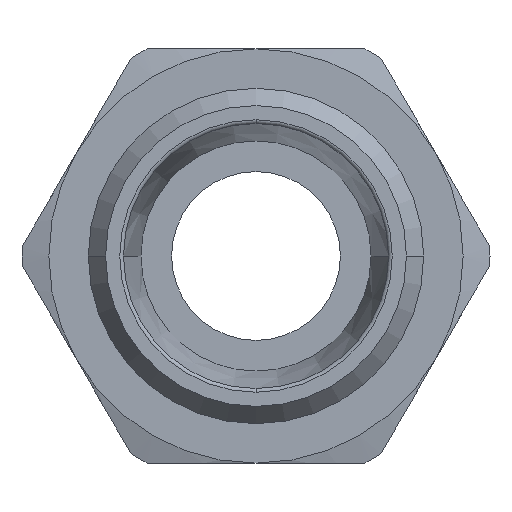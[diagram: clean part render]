
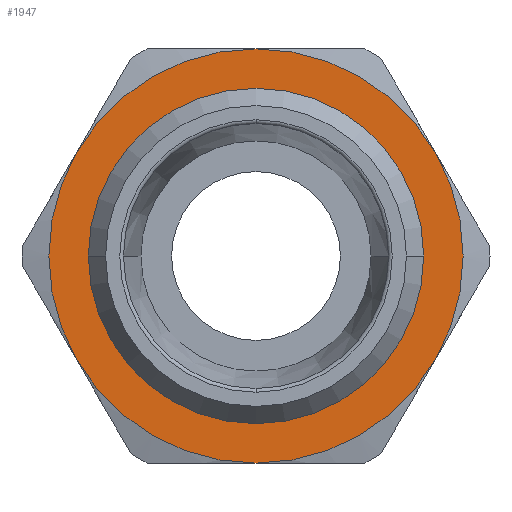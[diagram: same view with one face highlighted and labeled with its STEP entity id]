
A CAD part, left-side view. The second image highlights one B-rep face of the part: STEP entity #1947.
In plain terms, the highlighted planar face has unit normal (-1, 0, 0) as drawn and (0, 0, 1) by its records, which use the part's own axes.
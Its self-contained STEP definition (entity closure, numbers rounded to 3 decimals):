
#857=CARTESIAN_POINT('',(-10.8,0.,3.0));
#858=VERTEX_POINT('',#857);
#884=CARTESIAN_POINT('',(10.8,0.,3.0));
#885=VERTEX_POINT('',#884);
#893=CARTESIAN_POINT('',(0.,0.,3.0));
#894=DIRECTION('',(0.0,0.0,1.0));
#895=DIRECTION('',(-1.0,0.0,0.0));
#896=AXIS2_PLACEMENT_3D('',#893,#894,#895);
#897=CIRCLE('',#896,10.8);
#898=EDGE_CURVE('',#885,#858,#897,.T.);
#1827=CARTESIAN_POINT('',(0.,-10.8,3.));
#1828=VERTEX_POINT('',#1827);
#1829=CARTESIAN_POINT('',(0.,0.,3.0));
#1830=DIRECTION('',(0.0,0.0,1.0));
#1831=DIRECTION('',(-1.0,0.0,0.0));
#1832=AXIS2_PLACEMENT_3D('',#1829,#1830,#1831);
#1833=CIRCLE('',#1832,10.8);
#1834=EDGE_CURVE('',#858,#1828,#1833,.T.);
#1836=CARTESIAN_POINT('',(0.,0.,3.0));
#1837=DIRECTION('',(0.0,0.0,1.0));
#1838=DIRECTION('',(-1.0,0.0,0.0));
#1839=AXIS2_PLACEMENT_3D('',#1836,#1837,#1838);
#1840=CIRCLE('',#1839,10.8);
#1841=EDGE_CURVE('',#1828,#885,#1840,.T.);
#1881=CARTESIAN_POINT('',(0.,0.,3.0));
#1882=DIRECTION('',(0.0,0.0,1.0));
#1883=DIRECTION('',(1.0,0.0,0.0));
#1884=AXIS2_PLACEMENT_3D('',#1881,#1882,#1883);
#1885=PLANE('',#1884);
#1886=CARTESIAN_POINT('',(6.75,-11.691,3.));
#1887=VERTEX_POINT('',#1886);
#1888=CARTESIAN_POINT('',(13.5,0.0,3.));
#1889=VERTEX_POINT('',#1888);
#1890=CARTESIAN_POINT('',(0.,0.0,3.0));
#1891=DIRECTION('',(0.0,0.0,1.0));
#1892=DIRECTION('',(1.0,0.0,0.0));
#1893=AXIS2_PLACEMENT_3D('',#1890,#1891,#1892);
#1894=CIRCLE('',#1893,13.5);
#1895=EDGE_CURVE('',#1887,#1889,#1894,.T.);
#1896=ORIENTED_EDGE('',*,*,#1895,.T.);
#1897=CARTESIAN_POINT('',(6.75,11.691,3.));
#1898=VERTEX_POINT('',#1897);
#1899=CARTESIAN_POINT('',(0.,0.0,3.0));
#1900=DIRECTION('',(0.0,0.0,1.0));
#1901=DIRECTION('',(1.0,0.0,0.0));
#1902=AXIS2_PLACEMENT_3D('',#1899,#1900,#1901);
#1903=CIRCLE('',#1902,13.5);
#1904=EDGE_CURVE('',#1889,#1898,#1903,.T.);
#1905=ORIENTED_EDGE('',*,*,#1904,.T.);
#1906=CARTESIAN_POINT('',(-6.75,11.691,3.));
#1907=VERTEX_POINT('',#1906);
#1908=CARTESIAN_POINT('',(0.,0.0,3.0));
#1909=DIRECTION('',(0.0,0.0,1.0));
#1910=DIRECTION('',(1.0,0.0,0.0));
#1911=AXIS2_PLACEMENT_3D('',#1908,#1909,#1910);
#1912=CIRCLE('',#1911,13.5);
#1913=EDGE_CURVE('',#1898,#1907,#1912,.T.);
#1914=ORIENTED_EDGE('',*,*,#1913,.T.);
#1915=CARTESIAN_POINT('',(-13.5,0.,3.));
#1916=VERTEX_POINT('',#1915);
#1917=CARTESIAN_POINT('',(0.,0.0,3.0));
#1918=DIRECTION('',(0.0,0.0,1.0));
#1919=DIRECTION('',(1.0,0.0,0.0));
#1920=AXIS2_PLACEMENT_3D('',#1917,#1918,#1919);
#1921=CIRCLE('',#1920,13.5);
#1922=EDGE_CURVE('',#1907,#1916,#1921,.T.);
#1923=ORIENTED_EDGE('',*,*,#1922,.T.);
#1924=CARTESIAN_POINT('',(-6.75,-11.691,3.));
#1925=VERTEX_POINT('',#1924);
#1926=CARTESIAN_POINT('',(0.,0.0,3.0));
#1927=DIRECTION('',(0.0,0.0,1.0));
#1928=DIRECTION('',(1.0,0.0,0.0));
#1929=AXIS2_PLACEMENT_3D('',#1926,#1927,#1928);
#1930=CIRCLE('',#1929,13.5);
#1931=EDGE_CURVE('',#1916,#1925,#1930,.T.);
#1932=ORIENTED_EDGE('',*,*,#1931,.T.);
#1933=CARTESIAN_POINT('',(0.,0.0,3.0));
#1934=DIRECTION('',(0.0,0.0,1.0));
#1935=DIRECTION('',(1.0,0.0,0.0));
#1936=AXIS2_PLACEMENT_3D('',#1933,#1934,#1935);
#1937=CIRCLE('',#1936,13.5);
#1938=EDGE_CURVE('',#1925,#1887,#1937,.T.);
#1939=ORIENTED_EDGE('',*,*,#1938,.T.);
#1940=EDGE_LOOP('',(#1896,#1905,#1914,#1923,#1932,#1939));
#1941=FACE_OUTER_BOUND('',#1940,.T.);
#1942=ORIENTED_EDGE('',*,*,#1841,.F.);
#1943=ORIENTED_EDGE('',*,*,#1834,.F.);
#1944=ORIENTED_EDGE('',*,*,#898,.F.);
#1945=EDGE_LOOP('',(#1942,#1943,#1944));
#1946=FACE_BOUND('',#1945,.T.);
#1947=ADVANCED_FACE('',(#1941,#1946),#1885,.T.);
